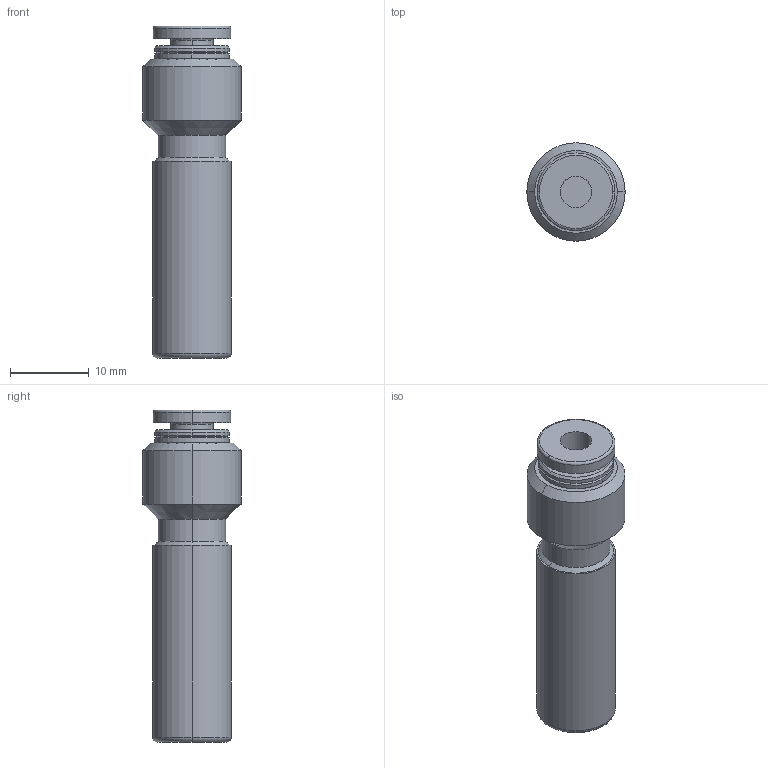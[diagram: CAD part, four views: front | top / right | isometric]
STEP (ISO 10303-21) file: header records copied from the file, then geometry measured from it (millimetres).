
FILE_DESCRIPTION(/* description */ ('AP214 STEP file'),/* implementation_level */ '2;1');
FILE_NAME(/* name */ 'PGJ10-4',/* time_stamp */ '2012-10-04T11:27:33+09:00',/* author */ (''),/* organization */ (''),/* preprocessor_version */ '.stp',/* originating_system */ 'UNIGRAPHICS',/* authorisation */ '');
FILE_SCHEMA (('AUTOMOTIVE_DESIGN'));
Length unit declared in the file: millimetre
Products named in the file (1): PGJ10-4
Bounding box: 12.5 x 12.5 x 42.2 mm (x, y, z)
Volume: 3335.5 mm3; surface area: 1862 mm2
Topology: 1 solids, 1 shells, 43 faces, 90 edges, 54 vertices
Faces by surface type: cylinder 16, cone 14, plane 7, torus 6
Entity records: 1072 total; most frequent: CARTESIAN_POINT 194, ORIENTED_EDGE 180, AXIS2_PLACEMENT_3D 101, EDGE_CURVE 90, STYLED_ITEM 90, CIRCLE 57, VERTEX_POINT 54, EDGE_LOOP 48
